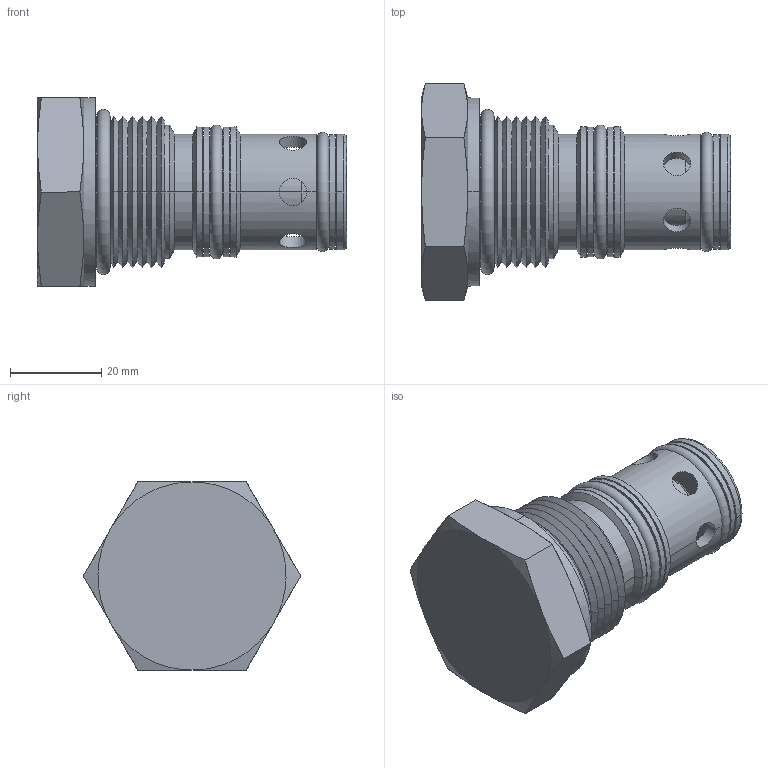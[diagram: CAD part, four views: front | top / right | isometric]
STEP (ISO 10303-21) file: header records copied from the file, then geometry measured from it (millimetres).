
FILE_DESCRIPTION( ( 'Unknown' ), '1' );
FILE_NAME( 'G:/Graphic Design/Graphic Design 2/Data Sheets/MANUAL_MECH OPERATED VALVES/4_STEP/Pilot to Close Check Valves/D-SLCPD00.stp', 'Unknown', ( 'Unknown' ), ( 'Unknown' ), 'PSStep 16.0.42', 'Unknown', ' ' );
FILE_SCHEMA( ( 'AUTOMOTIVE_DESIGN { 1 0 10303 214 1 1 1 1 }' ) );
Length unit declared in the file: millimetre
Products named in the file (9): Assem1; SLCPD00-3D Full1; SLCPD00-3D Full2; SLCPD00-3D Full3; SLCPD00-3D Full4; SLCPD00-3D Full5; SLCPD00-3D Full6; SLCPD00-3D Full7
Assembly tree (8 placements, depth 2):
  Assem1
    SLCPD00-3D Full1
    SLCPD00-3D Full2
    SLCPD00-3D Full3
    SLCPD00-3D Full4
    SLCPD00-3D Full5
    SLCPD00-3D Full6
    SLCPD00-3D Full7
    SLCPD00-3D Full7
Bounding box: 67.82 x 47.66 x 41.27 mm (x, y, z)
Surface area: 16385 mm2 (no closed solid volume)
Topology: 0 solids, 135 shells, 135 faces, 604 edges, 591 vertices
Faces by surface type: cylinder 50, cone 48, plane 24, torus 13
Full cylindrical faces by diameter (mm): 20.98 x1, 24.155 x2, 25.197 x1, 28.372 x2
Entity records: 10880 total; most frequent: CARTESIAN_POINT 5333, DIRECTION 844, VERTEX_POINT 595, ORIENTED_EDGE 592, EDGE_CURVE 592, AXIS2_PLACEMENT_3D 334, B_SPLINE_CURVE_WITH_KNOTS 226, CIRCLE 190
